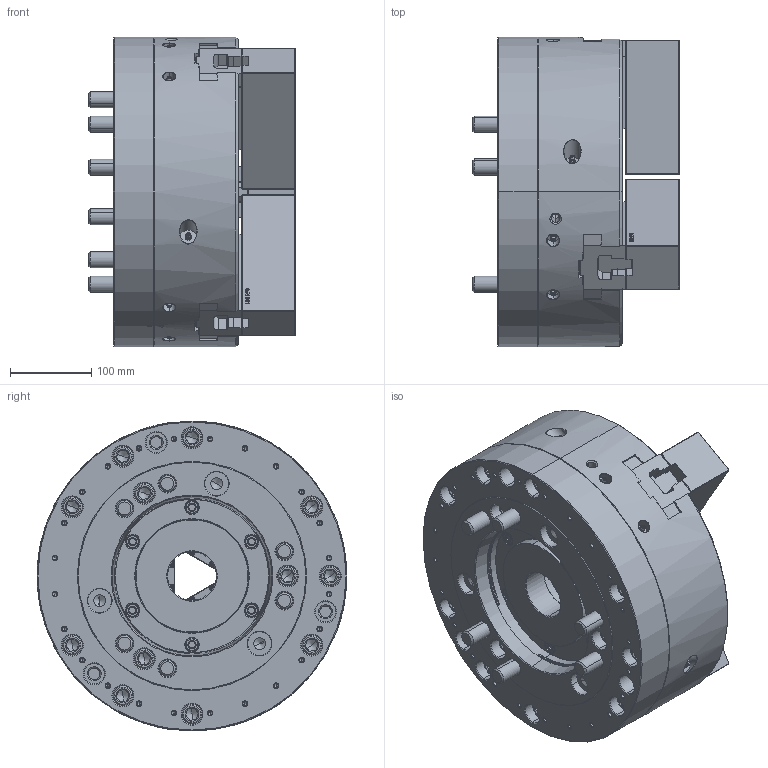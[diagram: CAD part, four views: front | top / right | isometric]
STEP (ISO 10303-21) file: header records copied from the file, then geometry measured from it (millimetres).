
FILE_DESCRIPTION (( 'STEP AP214' ), '1' );
FILE_NAME ('DT1_HOH-15K_OUTSIDE_VIEW_HOL.STEP', '2025-12-07T23:23:44', ( '' ), ( '' ), 'SwSTEP 2.0', 'SolidWorks 2022', '' );
FILE_SCHEMA (( 'AUTOMOTIVE_DESIGN' ));
Length unit declared in the file: millimetre
Products named in the file (9): DT1_HOH-15K_TNUT^DT1_HOH-15K; DT1_HOH-15K_BASE^DT1_HOH-15K; DT1_HOH-15K_COVER^DT1_HOH-15K; DT1_HOH-15K_M20x55^DT1_HOH-15K; DT1_HOH-15K_OUTSIDE_VIEW_HOL; DT1_HOH-15K_M6x20^DT1_HOH-15K; DT1_HOH-15K_M20x160^DT1_HOH-15K; DT1_HOH-15K_SOFTJAW^DT1_HOH-15K; DT1_HOH-15K_DRAWNUT^DT1_HOH-15K
Assembly tree (27 placements, depth 2):
  DT1_HOH-15K_OUTSIDE_VIEW_HOL
    DT1_HOH-15K_SOFTJAW^DT1_HOH-15K  x3
    DT1_HOH-15K_TNUT^DT1_HOH-15K  x3
    DT1_HOH-15K_DRAWNUT^DT1_HOH-15K
    DT1_HOH-15K_COVER^DT1_HOH-15K
    DT1_HOH-15K_BASE^DT1_HOH-15K
    DT1_HOH-15K_M6x20^DT1_HOH-15K  x6
    DT1_HOH-15K_M20x55^DT1_HOH-15K  x6
    DT1_HOH-15K_M20x160^DT1_HOH-15K  x6
Bounding box: 254 x 381 x 381 mm (x, y, z)
Volume: 17026004.9 mm3; surface area: 1226264.3 mm2
Topology: 27 solids, 33 shells, 8042 faces, 22741 edges, 14881 vertices
Faces by surface type: plane 4652, cylinder 2280, cone 694, bspline 317, torus 81, sphere 18
Entity records: 190021 total; most frequent: CARTESIAN_POINT 64075, ORIENTED_EDGE 28506, DIRECTION 22794, EDGE_CURVE 14253, LINE 9824, VECTOR 9824, VERTEX_POINT 9332, AXIS2_PLACEMENT_3D 6485
